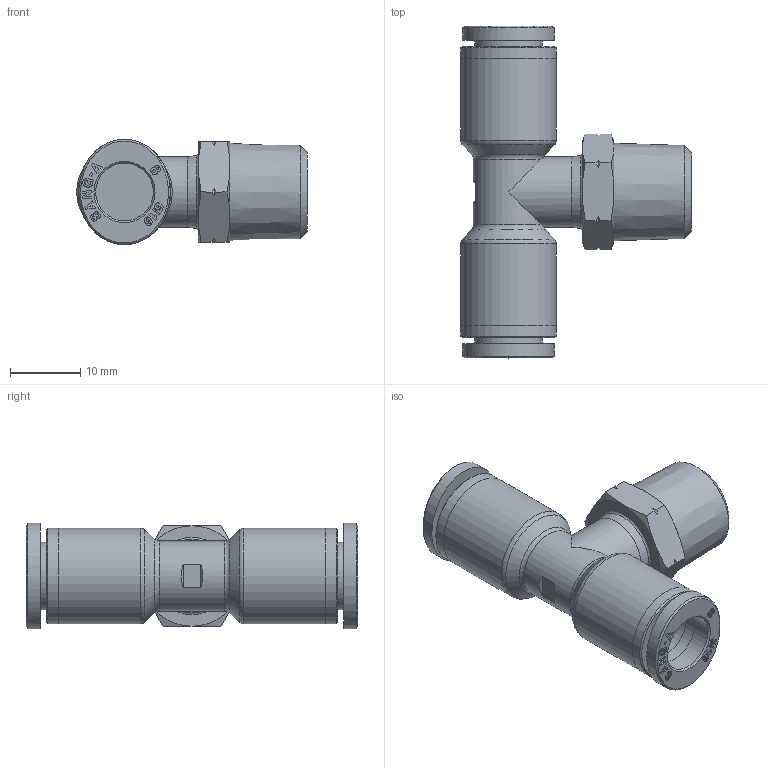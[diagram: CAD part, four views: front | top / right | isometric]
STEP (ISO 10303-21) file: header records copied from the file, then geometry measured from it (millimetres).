
FILE_DESCRIPTION((''),'2;1');
FILE_NAME('C:\Users\user0117\Desktop\김진일\홈페이지\5_16\Internet\G-FITTING INCH (STEP)\GPT 5_16-N02U.stp','2019-12-19T14:37:38',('user0117'),(''),'Autodesk Inventor 2013','Autodesk Inventor 2013','');
FILE_SCHEMA(('AUTOMOTIVE_DESIGN { 1 0 10303 214 1 1 1 1 }'));
Length unit declared in the file: millimetre
Products named in the file (6): GPT 5_16-N02U; GPL BODY 5_16-N02U(BRASS); GPT BODY-08(PLASTIC); G-COLLAR 5-16L; COLLAR G08L; SLEEVE G08
Assembly tree (6 placements, depth 3):
  GPT 5_16-N02U
    GPL BODY 5_16-N02U(BRASS)
    GPT BODY-08(PLASTIC)
    G-COLLAR 5-16L  x2
      COLLAR G08L
      SLEEVE G08
Bounding box: 32.8 x 47.2 x 14.99 mm (x, y, z)
Volume: 6279.8 mm3; surface area: 5801.3 mm2
Topology: 6 solids, 6 shells, 810 faces, 2250 edges, 1493 vertices
Faces by surface type: plane 697, bspline 40, cone 37, cylinder 31, torus 5
Full cylindrical faces by diameter (mm): 5.5 x1, 6 x1, 8 x1, 8.2 x6, 8.8 x1, 9.6 x2, 10 x1, 13.6 x4
Entity records: 14007 total; most frequent: CARTESIAN_POINT 2968, ORIENTED_EDGE 2326, DIRECTION 2086, EDGE_CURVE 1163, VECTOR 994, LINE 994, VERTEX_POINT 785, AXIS2_PLACEMENT_3D 546
